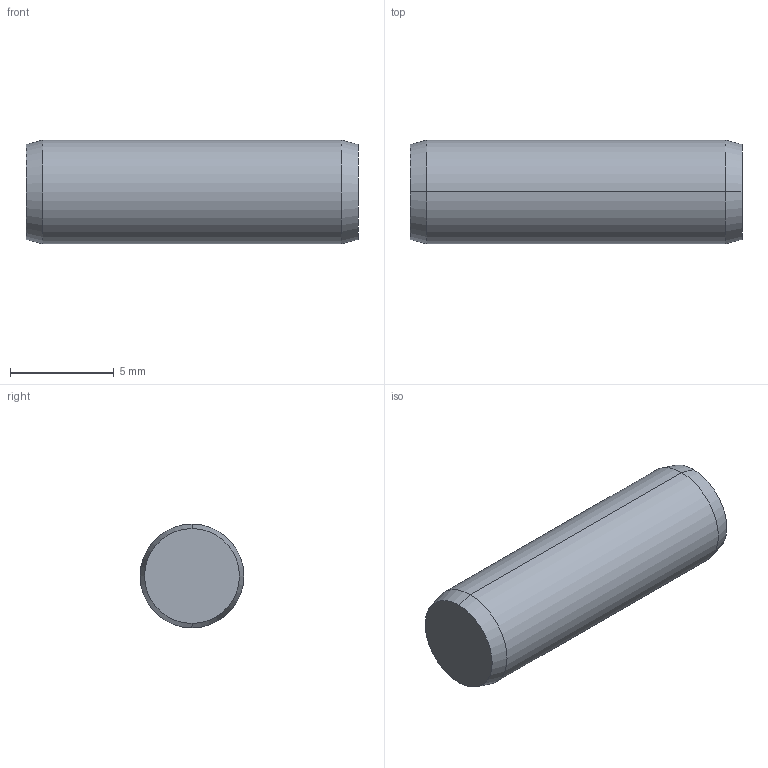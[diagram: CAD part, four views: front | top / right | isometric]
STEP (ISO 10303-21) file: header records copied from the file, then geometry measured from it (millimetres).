
FILE_DESCRIPTION (( 'STEP AP203' ), '1' );
FILE_NAME ('P1206.050-016.step', '2017-06-14T08:15:10', ( 'User' ), ( '' ), 'SwSTEP 2.0', 'SolidWorks 2009', '' );
FILE_SCHEMA (( 'CONFIG_CONTROL_DESIGN' ));
Length unit declared in the file: millimetre
Products named in the file (1): P1206.050-016
Bounding box: 16 x 5 x 5 mm (x, y, z)
Volume: 311.5 mm3; surface area: 283.9 mm2
Topology: 1 solids, 1 shells, 8 faces, 14 edges, 8 vertices
Faces by surface type: cone 4, cylinder 2, plane 2
Entity records: 271 total; most frequent: DIRECTION 40, CARTESIAN_POINT 31, ORIENTED_EDGE 28, AXIS2_PLACEMENT_3D 17, EDGE_CURVE 14, EDGE_LOOP 8, ADVANCED_FACE 8, VERTEX_POINT 8
